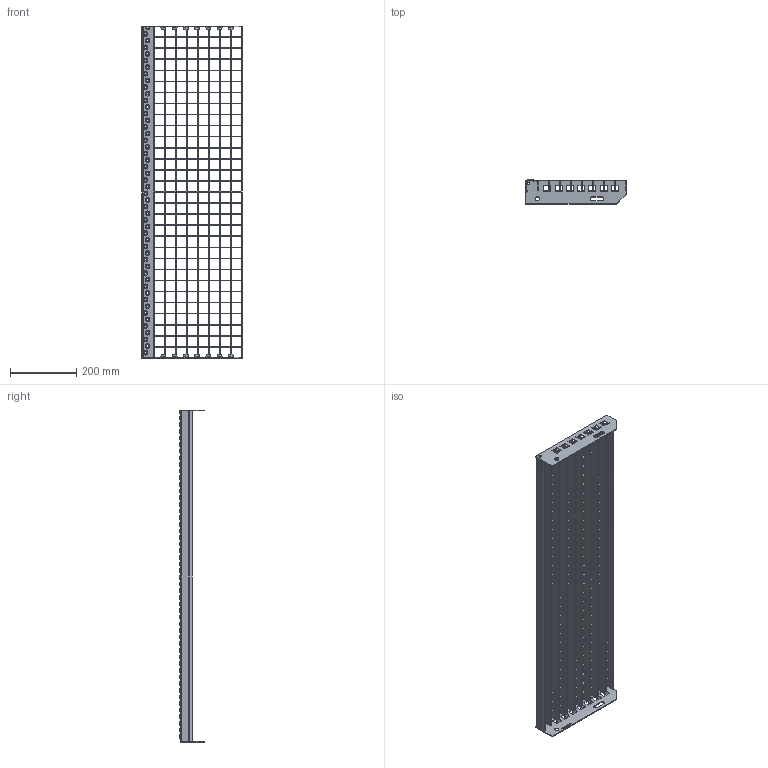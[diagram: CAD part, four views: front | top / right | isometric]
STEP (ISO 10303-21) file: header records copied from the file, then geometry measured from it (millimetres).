
FILE_DESCRIPTION(/* description */ ('','CAx-IF Rec.Pracs.---Representation and Presentation of Product Manufacturing Information (PMI)---3.8---2014-02-18'),/* implementation_level */ '2;1');
FILE_NAME(/* name */ 'C:\Users\phaverkotte\Desktop\Lager STEP\P-Stufen\P 330-33-3\P 330-33-3 1000mm x 305mm.stp',/* time_stamp */ '2018-03-24T09:59:34+01:00',/* author */ ('phaverkotte'),/* organization */ (''),/* preprocessor_version */ 'ST-DEVELOPER v16.13',/* originating_system */ 'Autodesk Inventor 2018',/* authorisation */ '');
FILE_SCHEMA (('AP242_MANAGED_MODEL_BASED_3D_ENGINEERING_MIM_LF { 1 0 10303 442 1 1 4 }'));
Length unit declared in the file: millimetre
Products named in the file (8): Schodišťový stupeň přím
ý lisovaný; Seitenplatte ausgeklinkt links; Seitenplatte 240 ausgeklinkt extern rechts; Schod nášlap; P Rošt schodu; Querstab; P Nosný pás; Hinteres Flach
Assembly tree (42 placements, depth 3):
  Schodišťový stupeň přím
ý lisovaný
    Seitenplatte ausgeklinkt links
    Seitenplatte 240 ausgeklinkt extern rechts
    Schod nášlap
    P Rošt schodu
      Querstab  x29
      P Nosný pás  x8
      Hinteres Flach
Bounding box: 303.64 x 72.75 x 1000 mm (x, y, z)
Volume: 1165067.6 mm3; surface area: 985117.7 mm2
Topology: 41 solids, 41 shells, 1870 faces, 5181 edges, 3410 vertices
Faces by surface type: plane 1490, cylinder 152, cone 150, torus 50, bspline 28
Full cylindrical faces by diameter (mm): 8 x2, 13 x2
Entity records: 30553 total; most frequent: CARTESIAN_POINT 9279, DIRECTION 4260, ORIENTED_EDGE 4052, EDGE_CURVE 2026, AXIS2_PLACEMENT_3D 1426, LINE 1408, VECTOR 1408, VERTEX_POINT 1407
